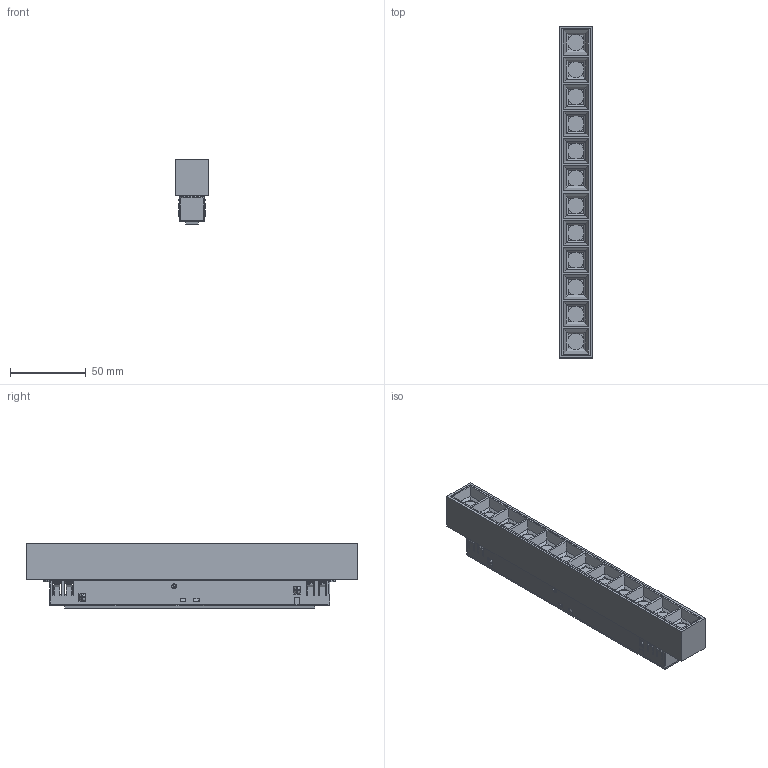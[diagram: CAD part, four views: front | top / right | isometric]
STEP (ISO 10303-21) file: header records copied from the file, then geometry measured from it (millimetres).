
FILE_DESCRIPTION (( 'STEP AP203' ), '1' );
FILE_NAME ('410097.STEP', '2025-04-02T02:18:15', ( '微软用户' ), ( '微软中国' ), 'SwSTEP 2.0', 'SolidWorks 2020', '' );
FILE_SCHEMA (( 'CONFIG_CONTROL_DESIGN' ));
Length unit declared in the file: millimetre
Products named in the file (31): GESHAN-12-TOU_5; 10-07-WJ1; MANIFOLD_SOLID_BREP_9447_1; MANIFOLD_SOLID_BREP_9454_1; MANIFOLD_SOLID_BREP_1147; 215X15MM-LVJIBAN_3; 10-08-G1_1; MANIFOLD_SOLID_BREP_9448_1; MANIFOLD_SOLID_BREP_9455_1; MANIFOLD_SOLID_BREP_1148; MANIFOLD_SOLID_BREP_9441_1; 10-10-gk-2; MANIFOLD_SOLID_BREP_9449_1; 903250E8922DVX0B_AF0_ASM_2_ASM; MANIFOLD_SOLID_BREP_1149; MANIFOLD_SOLID_BREP_9442_AF0_1; 410097; MANIFOLD_SOLID_BREP_9450_1; KY_18_8MM_3D_2022_ASM_3_ASM; MANIFOLD_SOLID_BREP_1150; MANIFOLD_SOLID_BREP_9444_1; MANIFOLD_SOLID_BREP_9451_1; ZUJIAN-GESHAN-12_ASM_9_ASM; MANIFOLD_SOLID_BREP_1155; MANIFOLD_SOLID_BREP_9445_1; MANIFOLD_SOLID_BREP_9452_1; MANIFOLD_SOLID_BREP_1145; MANIFOLD_SOLID_BREP_1156; MANIFOLD_SOLID_BREP_9446_1; MANIFOLD_SOLID_BREP_9453_1; MANIFOLD_SOLID_BREP_1146
Assembly tree (30 placements, depth 5):
  410097
    ZUJIAN-GESHAN-12_ASM_9_ASM
      GESHAN-12-TOU_5
      215X15MM-LVJIBAN_3
      KY_18_8MM_3D_2022_ASM_3_ASM
        903250E8922DVX0B_AF0_ASM_2_ASM
          MANIFOLD_SOLID_BREP_9441_1
          MANIFOLD_SOLID_BREP_9442_AF0_1
          MANIFOLD_SOLID_BREP_9444_1
          MANIFOLD_SOLID_BREP_9445_1
          MANIFOLD_SOLID_BREP_9446_1
          MANIFOLD_SOLID_BREP_9447_1
          MANIFOLD_SOLID_BREP_9448_1
          MANIFOLD_SOLID_BREP_9449_1
          MANIFOLD_SOLID_BREP_9450_1
          MANIFOLD_SOLID_BREP_9451_1
          MANIFOLD_SOLID_BREP_9452_1
          MANIFOLD_SOLID_BREP_9453_1
          MANIFOLD_SOLID_BREP_9454_1
          MANIFOLD_SOLID_BREP_9455_1
    10-10-gk-2
      MANIFOLD_SOLID_BREP_1145
      MANIFOLD_SOLID_BREP_1146
      MANIFOLD_SOLID_BREP_1147
      MANIFOLD_SOLID_BREP_1148
      MANIFOLD_SOLID_BREP_1149
      MANIFOLD_SOLID_BREP_1150
      MANIFOLD_SOLID_BREP_1155
      MANIFOLD_SOLID_BREP_1156
      10-07-WJ1
      10-08-G1_1
Bounding box: 22 x 219 x 43.2 mm (x, y, z)
Volume: 63975.8 mm3; surface area: 106670.2 mm2
Topology: 30 solids, 30 shells, 2619 faces, 7086 edges, 4574 vertices
Faces by surface type: plane 1813, cylinder 404, bspline 231, cone 171
Entity records: 105034 total; most frequent: CARTESIAN_POINT 39174, ORIENTED_EDGE 14172, DIRECTION 10987, EDGE_CURVE 7086, LINE 4745, VECTOR 4745, VERTEX_POINT 4574, AXIS2_PLACEMENT_3D 3121
